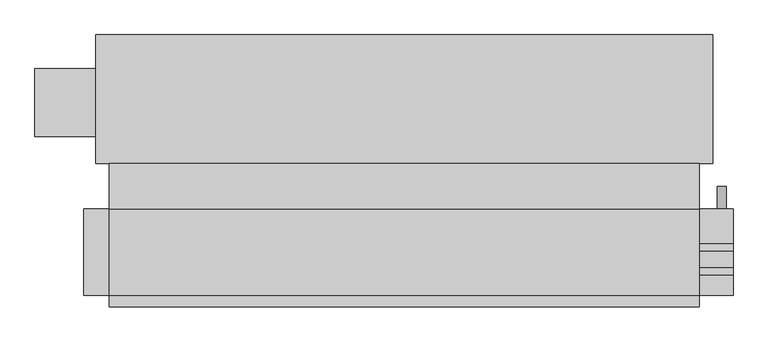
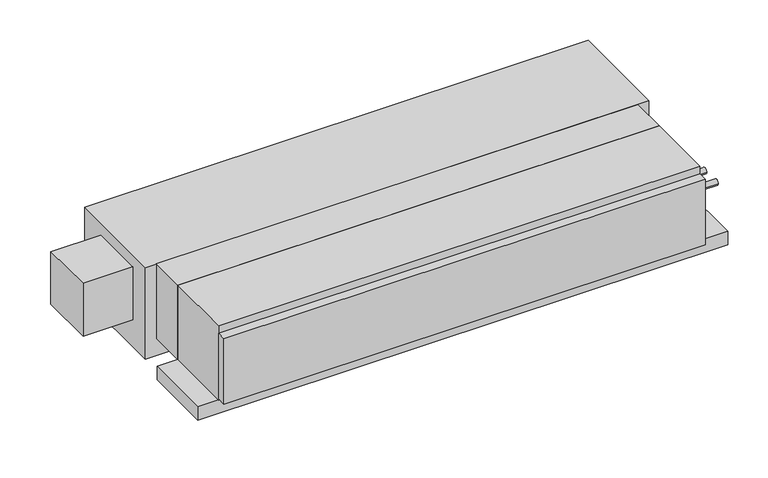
"""IFC4 building model written with IfcOpenShell, lengths in millimetres: proxy geometry, Concealed_Horizontal_Fan_Coil_Unit_With_Plenum_-_42CEA_-_CARRIER_-_2-Pipe_Cool-EHeat_RH_2022 : Size 10 - 277v/60Hz/1Ph - 4 Row 8.0kW."""

from ifc_helpers import new_model, si_unit, point, frame, frame_2d, origin, place, context, project, spatial, polyline, circle_curve, trimmed, segment, composite_curve, outline, extrude, source, transform, mapped, element, save


def mechanical_equipment_717de6e5(model_context):
    return source(origin(), model_context, "Body", "SweptSolid", [
        extrude(outline(composite_curve([segment(trimmed(circle_curve(frame_2d((-280.9875, -104.775)), 7.9375), [point((-273.05, -104.775))], [point((-288.925, -104.775))], False, "CARTESIAN"), True, "CONTINUOUS"), segment(trimmed(circle_curve(frame_2d((-280.9875, -104.775)), 7.9375), [point((-288.925, -104.775))], [point((-273.05, -104.775))], False, "CARTESIAN"), True, "CONTINUOUS")], self_intersect=False)), frame((812.8, 0.0, 0.0), z_axis=(1.0, 0.0, 0.0), x_axis=(0.0, 1.0, 0.0)), (0.0, 0.0, 1.0), 76.2),
        extrude(outline(composite_curve([segment(trimmed(circle_curve(frame_2d((-227.0125, -104.775)), 7.9375), [point((-219.075, -104.775))], [point((-234.95, -104.775))], False, "CARTESIAN"), True, "CONTINUOUS"), segment(trimmed(circle_curve(frame_2d((-227.0125, -104.775)), 7.9375), [point((-234.95, -104.775))], [point((-219.075, -104.775))], False, "CARTESIAN"), True, "CONTINUOUS")], self_intersect=False)), frame((812.8, 0.0, 0.0), z_axis=(1.0, 0.0, 0.0), x_axis=(0.0, 1.0, 0.0)), (0.0, 0.0, 1.0), 76.2),
        extrude(outline(composite_curve([segment(trimmed(circle_curve(frame_2d((-241.3, 863.6)), 9.525), [point((-241.3, 854.075))], [point((-241.3, 873.125))], False, "CARTESIAN"), True, "CONTINUOUS"), segment(trimmed(circle_curve(frame_2d((-241.3, 863.6)), 9.525), [point((-241.3, 873.125))], [point((-241.3, 854.075))], False, "CARTESIAN"), True, "CONTINUOUS")], self_intersect=False)), frame((0.0, -141.2875, 0.0), z_axis=(0.0, 1.0, 0.0), x_axis=(0.0, 0.0, 1.0)), (0.0, 0.0, 1.0), 50.8),
        extrude(outline(polyline([(-508.0, -39.6875), (812.8, -39.6875), (812.8, -141.2875), (-508.0, -141.2875), (-508.0, -39.6875)])), frame((0.0, 0.0, -215.9), z_axis=(0.0, 0.0, 1.0), x_axis=(1.0, 0.0, 0.0)), (0.0, 0.0, 1.0), 215.9),
        extrude(outline(polyline([(812.8, -360.3625), (-508.0, -360.3625), (-508.0, -334.9625), (812.8, -334.9625), (812.8, -360.3625)])), frame((0.0, 0.0, -212.725), z_axis=(0.0, 0.0, 1.0), x_axis=(1.0, 0.0, 0.0)), (0.0, 0.0, 1.0), 190.5),
        extrude(outline(polyline([(-674.6875, 20.6375), (-674.6875, 173.0375), (-538.1625, 173.0375), (-538.1625, 20.6375), (-674.6875, 20.6375)])), frame((0.0, 0.0, -187.325), z_axis=(0.0, 0.0, 1.0), x_axis=(1.0, 0.0, 0.0)), (0.0, 0.0, 1.0), 152.4),
        extrude(outline(polyline([(-538.1625, 249.2375), (842.9625, 249.2375), (842.9625, -39.6875), (-538.1625, -39.6875), (-538.1625, 249.2375)])), frame((0.0, 0.0, -266.7), z_axis=(0.0, 0.0, 1.0), x_axis=(1.0, 0.0, 0.0)), (0.0, 0.0, 1.0), 266.7),
        extrude(outline(polyline([(812.8, -141.2875), (812.8, -334.9625), (-508.0, -334.9625), (-508.0, -141.2875), (812.8, -141.2875)])), frame((0.0, 0.0, -215.9), z_axis=(0.0, 0.0, 1.0), x_axis=(1.0, 0.0, 0.0)), (0.0, 0.0, 1.0), 215.9),
        extrude(outline(polyline([(889.0, -141.2875), (889.0, -334.9625), (-565.15, -334.9625), (-565.15, -141.2875), (889.0, -141.2875)])), frame((0.0, 0.0, -254.0), z_axis=(0.0, 0.0, 1.0), x_axis=(1.0, 0.0, 0.0)), (0.0, 0.0, 1.0), 38.1),
    ])


if __name__ == "__main__":
    model = new_model("IFC4")
    model_context = context("Model", 3, world=origin())
    ifc_project = project(units=[si_unit("LENGTHUNIT", "METRE", prefix="MILLI")], contexts=[model_context])
    site = spatial("IfcSite", under=ifc_project)
    building = spatial("IfcBuilding", under=site)
    placement = place(None, origin())
    mechanical_equipment_shape = mechanical_equipment_717de6e5(model_context)
    element("IfcBuildingElementProxy", 1, Name="Concealed_Horizontal_Fan_Coil_Unit_With_Plenum_-_42CEA_-_CARRIER_-_2-Pipe_Cool-EHeat_RH_2022 : Size 10 - 277v/60Hz/1Ph - 4 Row 8.0kW", ObjectType="Concealed_Horizontal_Fan_Coil_Unit_With_Plenum_-_42CEA_-_CARRIER_-_2-Pipe_Cool-EHeat_RH_2022 : Size 10 - 277v/60Hz/1Ph - 4 Row 8.0kW", at=placement, inside=building, context=model_context, shape_type="MappedRepresentation", body=[
        mapped(mechanical_equipment_shape, transform((0.0, 0.0, 0.0), x_axis=(1.0, 0.0, 0.0), y_axis=(0.0, 1.0, 0.0), z_axis=(0.0, 0.0, 1.0))),
    ])
    save(model, "model.ifc")
